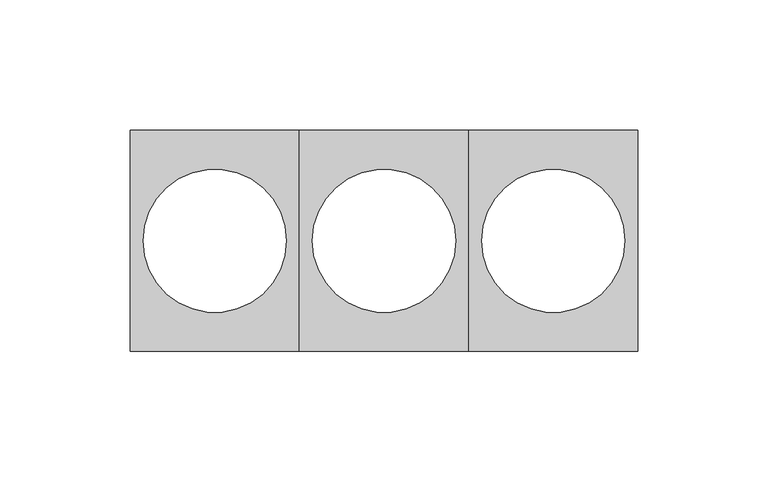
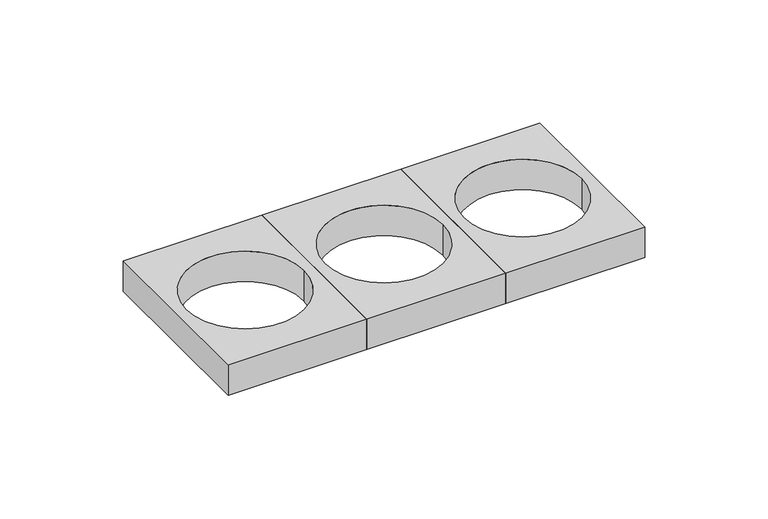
"""IFC4 building model written with IfcOpenShell, lengths in millimetres: duct fitting geometry, Суппорт для модульного оборудования - 3 модуля - для кабель-каналов DLP с шириной крышки 85 мм - белый : 85мм."""

from ifc_helpers import new_model, si_unit, point, frame_2d, origin, origin_with_axes, origin_2d, place, context, project, spatial, polyline, circle_curve, trimmed, segment, composite_curve, outline, extrude, source, transform, mapped, element, save


def duct_fitting_3f5c60d5(model_context):
    return source(origin(), model_context, "Body", "SweptSolid", [
        extrude(outline(polyline([(162.5, 42.5), (162.5, -42.5), (97.5, -42.5), (97.5, 42.5), (162.5, 42.5)]), holes=[composite_curve([segment(trimmed(circle_curve(frame_2d((130.0, 0.0)), 27.5), [point((102.5, 0.0))], [point((157.5, 0.0))], True, "CARTESIAN"), True, "CONTINUOUS"), segment(trimmed(circle_curve(frame_2d((130.0, 0.0)), 27.5), [point((157.5, 0.0))], [point((102.5, 0.0))], True, "CARTESIAN"), True, "CONTINUOUS")], self_intersect=False)]), origin_with_axes(), (0.0, 0.0, 1.0), 15.0),
        extrude(outline(polyline([(97.5, 42.5), (97.5, -42.5), (32.5, -42.5), (32.5, 42.5), (97.5, 42.5)]), holes=[composite_curve([segment(trimmed(circle_curve(frame_2d((65.0, 0.0)), 27.5), [point((37.5, 0.0))], [point((92.5, 0.0))], True, "CARTESIAN"), True, "CONTINUOUS"), segment(trimmed(circle_curve(frame_2d((65.0, 0.0)), 27.5), [point((92.5, 0.0))], [point((37.5, 0.0))], True, "CARTESIAN"), True, "CONTINUOUS")], self_intersect=False)]), origin_with_axes(), (0.0, 0.0, 1.0), 15.0),
        extrude(outline(polyline([(32.5, 42.5), (32.5, -42.5), (-32.5, -42.5), (-32.5, 42.5), (32.5, 42.5)]), holes=[composite_curve([segment(trimmed(circle_curve(origin_2d(), 27.5), [point((-27.5, 0.0))], [point((27.5, 0.0))], True, "CARTESIAN"), True, "CONTINUOUS"), segment(trimmed(circle_curve(origin_2d(), 27.5), [point((27.5, 0.0))], [point((-27.5, 0.0))], True, "CARTESIAN"), True, "CONTINUOUS")], self_intersect=False)]), origin_with_axes(), (0.0, 0.0, 1.0), 15.0),
    ])


if __name__ == "__main__":
    model = new_model("IFC4")
    model_context = context("Model", 3, world=origin())
    ifc_project = project(units=[si_unit("LENGTHUNIT", "METRE", prefix="MILLI")], contexts=[model_context])
    site = spatial("IfcSite", under=ifc_project)
    building = spatial("IfcBuilding", under=site)
    placement = place(None, origin())
    duct_fitting_shape = duct_fitting_3f5c60d5(model_context)
    element("IfcDuctFitting", 1, ObjectType="Суппорт для модульного оборудования - 3 модуля - для кабель-каналов DLP с шириной крышки 85 мм - белый : 85мм", at=placement, inside=building, context=model_context, shape_type="MappedRepresentation", body=[
        mapped(duct_fitting_shape, transform((0.0, 0.0, 0.0), x_axis=(1.0, 0.0, 0.0), y_axis=(0.0, 1.0, 0.0), z_axis=(0.0, 0.0, 1.0))),
    ])
    save(model, "model.ifc")
